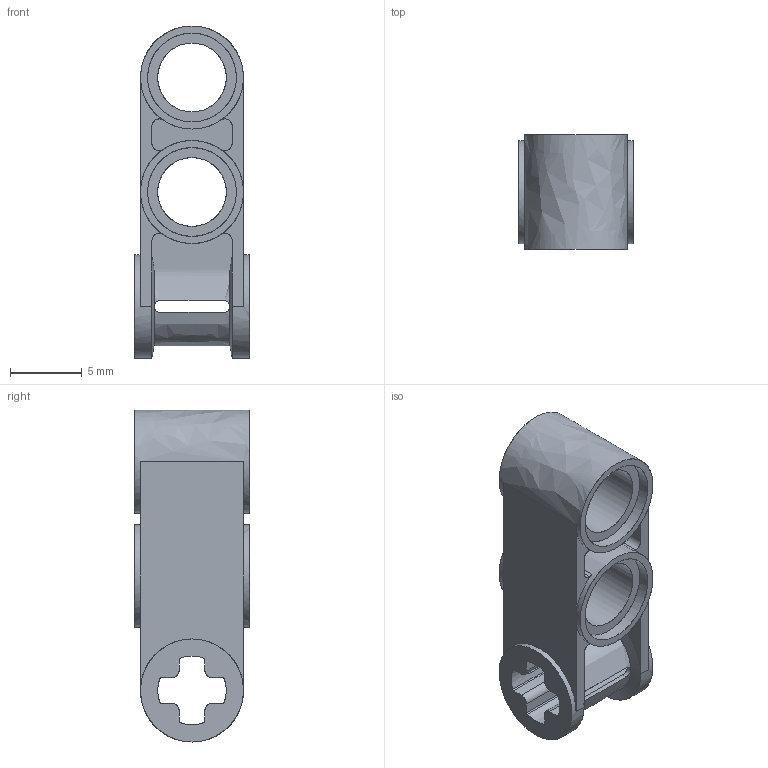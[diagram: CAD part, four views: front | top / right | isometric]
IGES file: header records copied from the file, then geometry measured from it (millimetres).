
Start section: C
Global section: file name: Ye_4175441_MCM.iges; native system: By Siemens PLM Incorporated; preprocessor: XPlus GENERIC/IGES 26.1.183; author: Author; organization: Title; date: 20250722.000832; units: millimetre
Bounding box: 8 x 8 x 23.2 mm (x, y, z)
Surface area: 1203.3 mm2 (no closed solid volume)
Topology: 0 solids, 0 shells, 98 faces, 582 edges, 582 vertices
Faces by surface type: bspline 98
